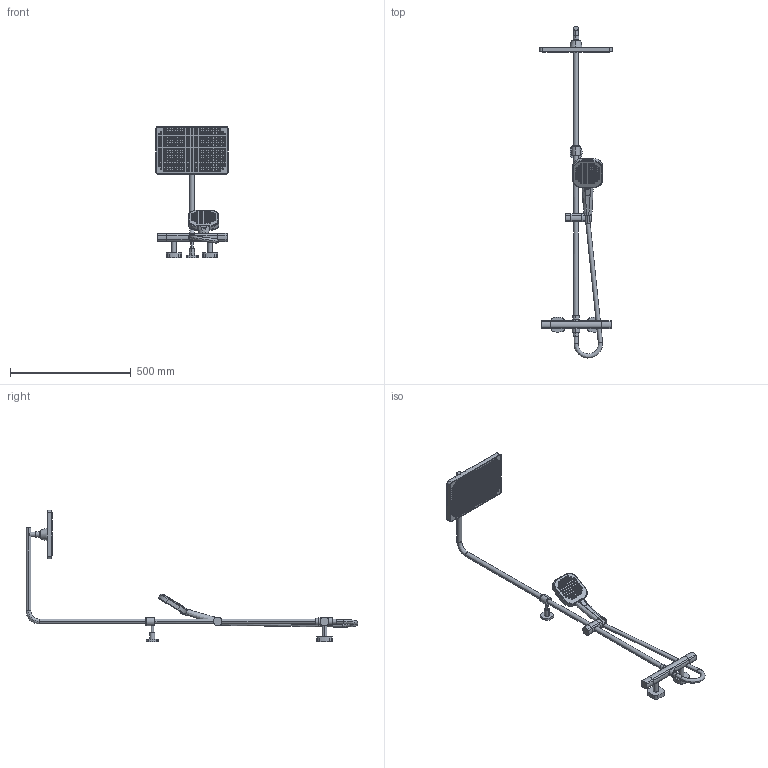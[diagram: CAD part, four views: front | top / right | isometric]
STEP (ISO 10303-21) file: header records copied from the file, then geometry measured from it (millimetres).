
FILE_DESCRIPTION(('FreeCAD Model'),'2;1');
FILE_NAME('Open CASCADE Shape Model','2024-11-19T15:04:33',('Author'),( ''),'Open CASCADE STEP processor 7.6','FreeCAD','Unknown');
FILE_SCHEMA(('AUTOMOTIVE_DESIGN { 1 0 10303 214 1 1 1 1 }'));
Length unit declared in the file: millimetre
Products named in the file (17): TopLevelAssembly; Obrót profilu; Wyciąganie001; Wyciąganie002; Wyciąganie003; Połączona geometria bryłowa002; Połączona geometria bryłowa; Połączona geometria bryłowa001; Połączona geometria bryłowa003; Połączona geometria bryłowa004; Połączona geometria bryłowa005; Połączona geometria bryłowa008; Połączona geometria bryłowa006; Połączona geometria bryłowa007; Połączona geometria bryłowa011; Połączona geometria bryłowa009; Połączona geometria bryłowa010
Assembly tree (16 placements, depth 3):
  TopLevelAssembly
    Obrót profilu
    Wyciąganie001
    Wyciąganie002
    Wyciąganie003
    Połączona geometria bryłowa002
      Połączona geometria bryłowa
      Połączona geometria bryłowa001
    Połączona geometria bryłowa003
    Połączona geometria bryłowa004
    Połączona geometria bryłowa005
    Połączona geometria bryłowa008
      Połączona geometria bryłowa006
      Połączona geometria bryłowa007
    Połączona geometria bryłowa011
      Połączona geometria bryłowa009
      Połączona geometria bryłowa010
Bounding box: 299.39 x 1374.21 x 543.19 mm (x, y, z)
Volume: 2959528.7 mm3; surface area: 655142 mm2
Topology: 13 solids, 13 shells, 2053 faces, 4234 edges, 2781 vertices
Faces by surface type: cylinder 1327, plane 678, bspline 48
Entity records: 58778 total; most frequent: CARTESIAN_POINT 12395, DIRECTION 10808, ORIENTED_EDGE 8460, AXIS2_PLACEMENT_3D 4659, EDGE_CURVE 4230, VERTEX_POINT 2781, FACE_BOUND 2633, EDGE_LOOP 2633
